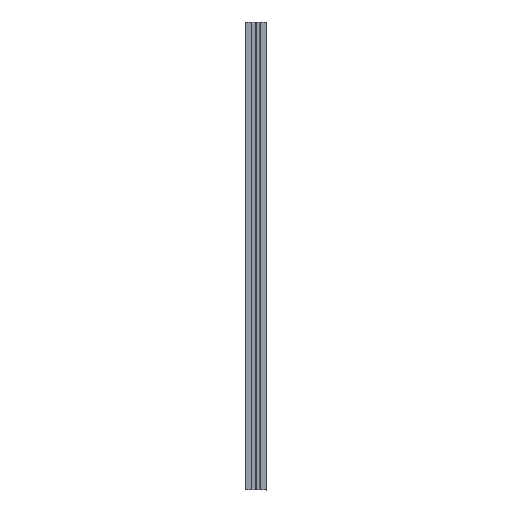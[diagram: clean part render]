
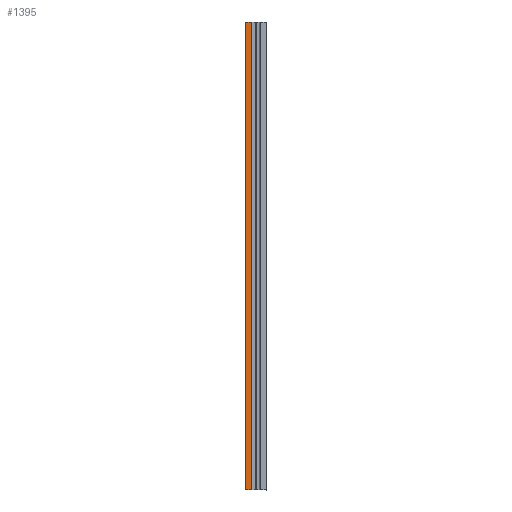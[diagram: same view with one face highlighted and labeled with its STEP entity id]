
A CAD part, left-side view. The second image highlights one B-rep face of the part: STEP entity #1395.
In plain terms, the highlighted planar face has unit normal (-1, 0, 0).
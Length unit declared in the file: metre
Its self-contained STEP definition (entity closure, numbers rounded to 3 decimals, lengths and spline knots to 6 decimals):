
#51=ORIENTED_EDGE('',*,*,#456,.T.);
#52=ORIENTED_EDGE('',*,*,#458,.F.);
#53=ORIENTED_EDGE('',*,*,#459,.F.);
#54=ORIENTED_EDGE('',*,*,#460,.T.);
#456=EDGE_CURVE('',#658,#657,#800,.T.);
#458=EDGE_CURVE('',#659,#657,#802,.T.);
#459=EDGE_CURVE('',#660,#659,#803,.T.);
#460=EDGE_CURVE('',#660,#658,#804,.T.);
#657=VERTEX_POINT('',#1950);
#658=VERTEX_POINT('',#1952);
#659=VERTEX_POINT('',#1956);
#660=VERTEX_POINT('',#1958);
#800=LINE('',#1951,#996);
#802=LINE('',#1955,#998);
#803=LINE('',#1957,#999);
#804=LINE('',#1959,#1000);
#996=VECTOR('',#1585,1.);
#998=VECTOR('',#1589,1.);
#999=VECTOR('',#1590,1.);
#1000=VECTOR('',#1591,1.);
#1181=EDGE_LOOP('',(#51,#52,#53,#54));
#1255=FACE_BOUND('',#1181,.T.);
#1329=PLANE('',#1479);
#1395=ADVANCED_FACE('',(#1255),#1329,.T.);
#1479=AXIS2_PLACEMENT_3D('',#1954,#1587,#1588);
#1585=DIRECTION('',(0.,0.,1.));
#1587=DIRECTION('',(-1.,0.,0.));
#1588=DIRECTION('',(0.,1.,0.));
#1589=DIRECTION('',(0.,-1.,0.));
#1590=DIRECTION('',(0.,0.,1.));
#1591=DIRECTION('',(0.,-1.,0.));
#1950=CARTESIAN_POINT('',(-0.303942,-0.02094,0.206613));
#1951=CARTESIAN_POINT('',(-0.303942,-0.02094,-0.233387));
#1952=CARTESIAN_POINT('',(-0.303942,-0.02094,-0.233387));
#1954=CARTESIAN_POINT('',(-0.303942,-0.01602,-0.233387));
#1955=CARTESIAN_POINT('',(-0.303942,-0.01602,0.206613));
#1956=CARTESIAN_POINT('',(-0.303942,-0.01602,0.206613));
#1957=CARTESIAN_POINT('',(-0.303942,-0.01602,-0.233387));
#1958=CARTESIAN_POINT('',(-0.303942,-0.01602,-0.233387));
#1959=CARTESIAN_POINT('',(-0.303942,-0.01602,-0.233387));
